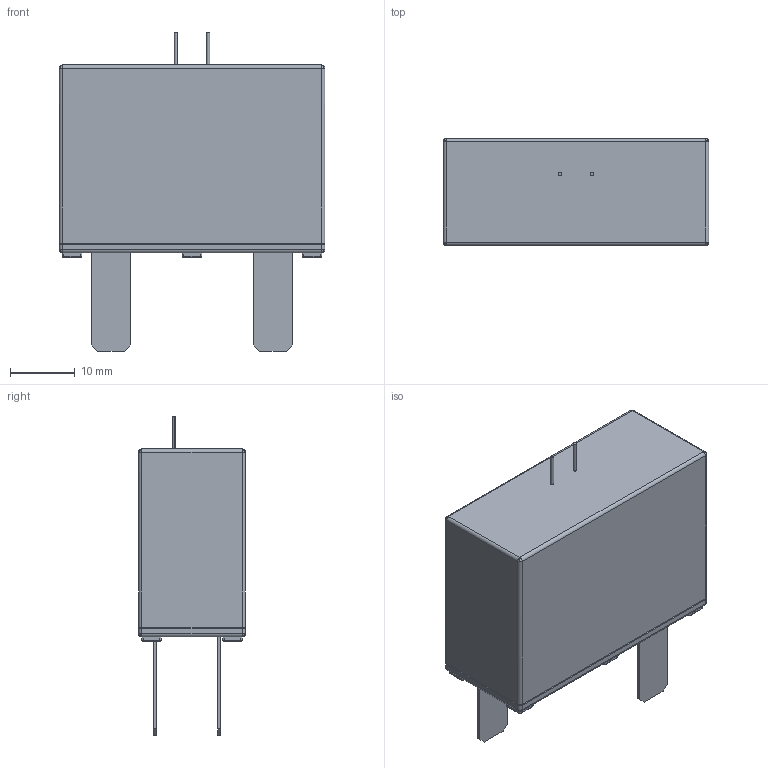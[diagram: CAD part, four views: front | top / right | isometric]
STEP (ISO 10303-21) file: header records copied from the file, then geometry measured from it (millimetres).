
FILE_DESCRIPTION (( 'STEP AP203' ), '1' );
FILE_NAME ('1CA_TFMOV20K350-IT-4-001.stp', '2020-08-07T08:12:40', ( '' ), ( '' ), 'SwSTEP 2.0', 'SolidWorks 2016', '' );
FILE_SCHEMA (( 'CONFIG_CONTROL_DESIGN' ));
Length unit declared in the file: millimetre
Products named in the file (1): 1CA_TFMOV20K350-IT-4-001
Bounding box: 41 x 16.5 x 49.2 mm (x, y, z)
Volume: 19602.9 mm3; surface area: 6073.5 mm2
Topology: 1 solids, 7 shells, 300 faces, 764 edges, 426 vertices
Faces by surface type: plane 140, cylinder 100, bspline 60
Entity records: 9209 total; most frequent: CARTESIAN_POINT 2447, ORIENTED_EDGE 1400, DIRECTION 1378, EDGE_CURVE 700, AXIS2_PLACEMENT_3D 469, LINE 440, VECTOR 440, VERTEX_POINT 426
